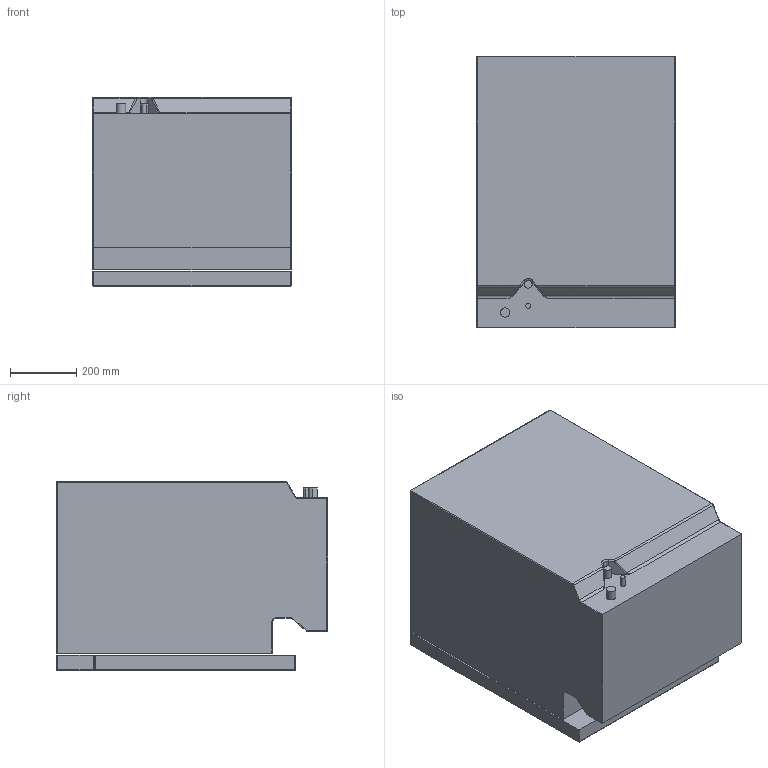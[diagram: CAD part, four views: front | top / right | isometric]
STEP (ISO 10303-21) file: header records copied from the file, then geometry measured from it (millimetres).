
FILE_DESCRIPTION (( 'STEP AP214' ), '1' );
FILE_NAME ('PL60-H820 i2 inox sottotop.STEP', '2023-04-03T08:03:39', ( '' ), ( '' ), 'SwSTEP 2.0', 'SolidWorks 2021', '' );
FILE_SCHEMA (( 'AUTOMOTIVE_DESIGN' ));
Length unit declared in the file: millimetre
Products named in the file (1): PL60-H820 i2 inox sottotop
Bounding box: 598 x 818 x 571 mm (x, y, z)
Volume: 262127273.7 mm3; surface area: 3625086.4 mm2
Topology: 9 solids, 9 shells, 567 faces, 1430 edges, 884 vertices
Faces by surface type: plane 270, cylinder 191, cone 54, bspline 31, torus 11, sphere 10
Entity records: 17284 total; most frequent: CARTESIAN_POINT 3678, ORIENTED_EDGE 2840, DIRECTION 2829, EDGE_CURVE 1420, AXIS2_PLACEMENT_3D 957, VECTOR 915, LINE 915, VERTEX_POINT 884
